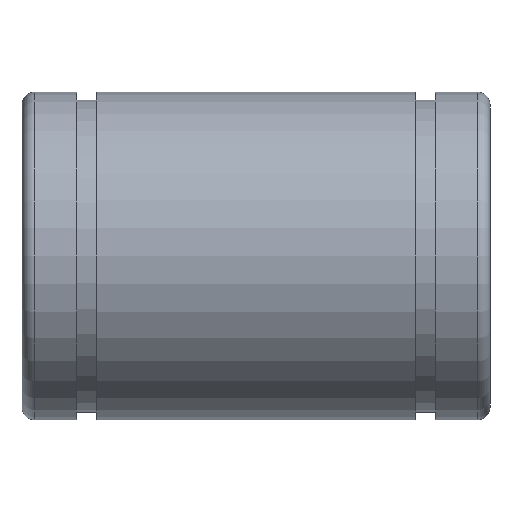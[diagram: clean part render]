
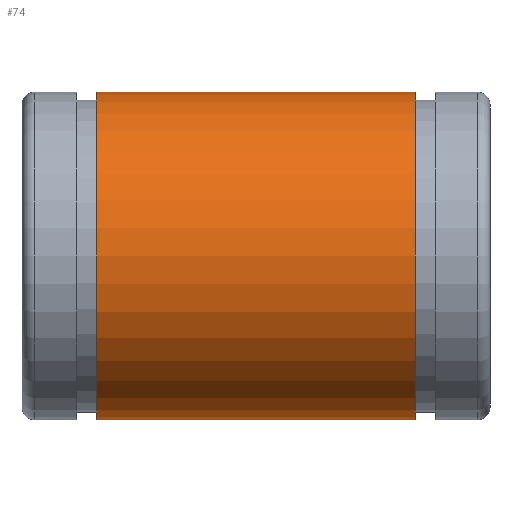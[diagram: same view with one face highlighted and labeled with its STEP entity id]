
A CAD part, front view. The second image highlights one B-rep face of the part: STEP entity #74.
In plain terms, the highlighted cylindrical face has radius 10.5 mm (diameter 21 mm), a full revolution.
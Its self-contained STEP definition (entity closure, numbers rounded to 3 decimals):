
#74 = ADVANCED_FACE( '', ( #159, #160 ), #161, .T. );
#159 = FACE_OUTER_BOUND( '', #238, .T. );
#160 = FACE_OUTER_BOUND( '', #239, .T. );
#161 = CYLINDRICAL_SURFACE( '', #240, 10.5 );
#238 = EDGE_LOOP( '', ( #343 ) );
#239 = EDGE_LOOP( '', ( #344 ) );
#240 = AXIS2_PLACEMENT_3D( '', #345, #346, #347 );
#343 = ORIENTED_EDGE( '', *, *, #372, .F. );
#344 = ORIENTED_EDGE( '', *, *, #376, .T. );
#345 = CARTESIAN_POINT( '', ( 15., 0., 0. ) );
#346 = DIRECTION( '', ( -1., 0., 0. ) );
#347 = DIRECTION( '', ( 0., 1., 0. ) );
#372 = EDGE_CURVE( '', #419, #419, #420, .T. );
#376 = EDGE_CURVE( '', #425, #425, #426, .T. );
#419 = VERTEX_POINT( '', #473 );
#420 = CIRCLE( '', #474, 10.5 );
#425 = VERTEX_POINT( '', #479 );
#426 = CIRCLE( '', #480, 10.5 );
#473 = CARTESIAN_POINT( '', ( 4.8, 10.5, 0. ) );
#474 = AXIS2_PLACEMENT_3D( '', #531, #532, #533 );
#479 = CARTESIAN_POINT( '', ( 25.2, 10.5, 0. ) );
#480 = AXIS2_PLACEMENT_3D( '', #537, #538, #539 );
#531 = CARTESIAN_POINT( '', ( 4.8, 0., 0. ) );
#532 = DIRECTION( '', ( -1., 0., 0. ) );
#533 = DIRECTION( '', ( 0., 1., 0. ) );
#537 = CARTESIAN_POINT( '', ( 25.2, 0., 0. ) );
#538 = DIRECTION( '', ( -1., 0., 0. ) );
#539 = DIRECTION( '', ( 0., 1., 0. ) );
